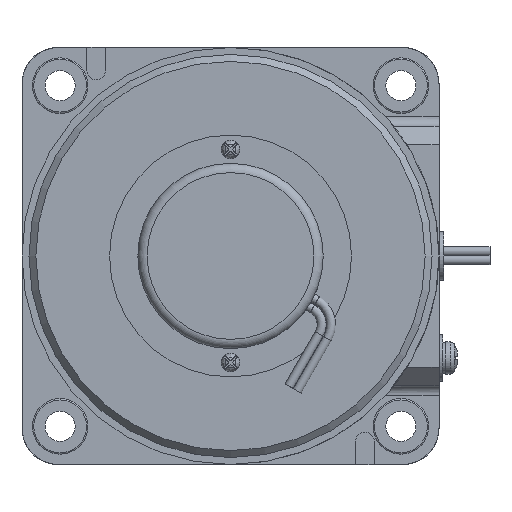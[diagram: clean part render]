
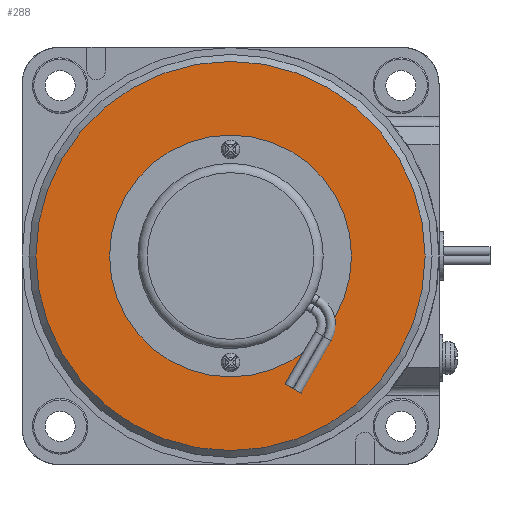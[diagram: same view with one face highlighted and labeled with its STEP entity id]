
A CAD part, left-side view. The second image highlights one B-rep face of the part: STEP entity #288.
In plain terms, the highlighted planar face has unit normal (-1, 0, 0) as drawn and (1, 0, 0) by its records, which use the part's own axes.
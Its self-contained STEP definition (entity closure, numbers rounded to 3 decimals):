
#288 = ADVANCED_FACE( '', ( #526, #527 ), #528, .F. );
#526 = FACE_BOUND( '', #965, .T. );
#527 = FACE_OUTER_BOUND( '', #966, .T. );
#528 = PLANE( '', #967 );
#965 = EDGE_LOOP( '', ( #1689 ) );
#966 = EDGE_LOOP( '', ( #1690 ) );
#967 = AXIS2_PLACEMENT_3D( '', #1691, #1692, #1693 );
#1689 = ORIENTED_EDGE( '', *, *, #2757, .F. );
#1690 = ORIENTED_EDGE( '', *, *, #2758, .T. );
#1691 = CARTESIAN_POINT( '', ( 108., 42., 0. ) );
#1692 = DIRECTION( '', ( -1., 0., 0. ) );
#1693 = DIRECTION( '', ( 0., 0., 1. ) );
#2757 = EDGE_CURVE( '', #3231, #3231, #3232, .T. );
#2758 = EDGE_CURVE( '', #3233, #3233, #3234, .T. );
#3231 = VERTEX_POINT( '', #4016 );
#3232 = CIRCLE( '', #4017, 26.1 );
#3233 = VERTEX_POINT( '', #4018 );
#3234 = CIRCLE( '', #4019, 42. );
#4016 = CARTESIAN_POINT( '', ( 108., 0., -26.1 ) );
#4017 = AXIS2_PLACEMENT_3D( '', #4819, #4820, #4821 );
#4018 = CARTESIAN_POINT( '', ( 108., 0., -42. ) );
#4019 = AXIS2_PLACEMENT_3D( '', #4822, #4823, #4824 );
#4819 = CARTESIAN_POINT( '', ( 108., 0., 0. ) );
#4820 = DIRECTION( '', ( 1., 0., 0. ) );
#4821 = DIRECTION( '', ( 0., 0., -1. ) );
#4822 = CARTESIAN_POINT( '', ( 108., 0., 0. ) );
#4823 = DIRECTION( '', ( 1., 0., 0. ) );
#4824 = DIRECTION( '', ( 0., 0., -1. ) );
